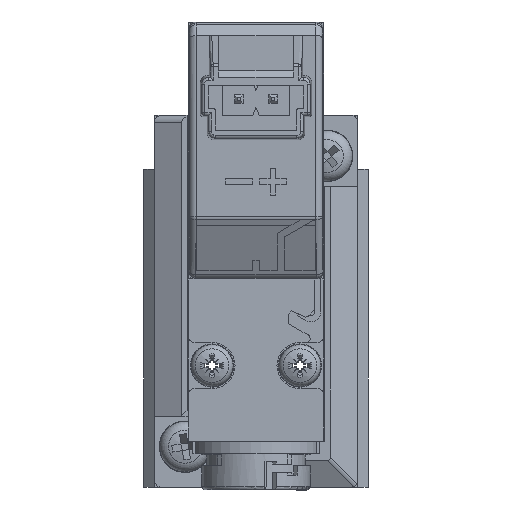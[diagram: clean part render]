
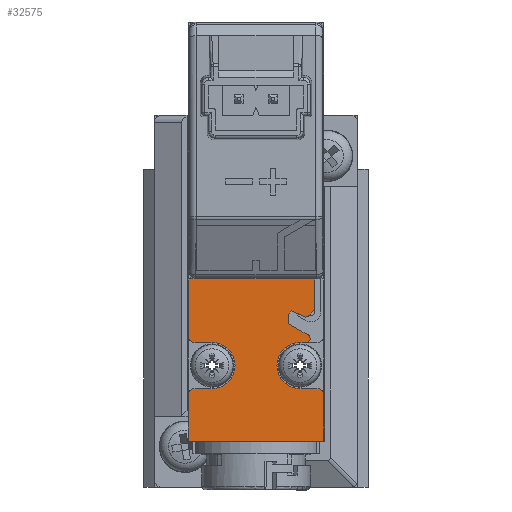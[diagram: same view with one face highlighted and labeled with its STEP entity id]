
A CAD part, left-side view. The second image highlights one B-rep face of the part: STEP entity #32575.
In plain terms, the highlighted planar face has unit normal (-1, 0, 0).
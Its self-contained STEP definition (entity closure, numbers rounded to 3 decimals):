
#2125=PLANE('',#35375);
#4844=LINE('',#61554,#7617);
#4846=LINE('',#61558,#7619);
#4848=LINE('',#61562,#7621);
#4850=LINE('',#61566,#7623);
#4854=LINE('',#61577,#7627);
#4856=LINE('',#61581,#7629);
#4864=LINE('',#61599,#7637);
#4867=LINE('',#61604,#7640);
#4870=LINE('',#61611,#7643);
#4871=LINE('',#61615,#7644);
#4872=LINE('',#61619,#7645);
#4873=LINE('',#61622,#7646);
#4874=LINE('',#61624,#7647);
#4875=LINE('',#61628,#7648);
#4876=LINE('',#61631,#7649);
#7617=VECTOR('',#43611,1.68);
#7619=VECTOR('',#43615,0.7);
#7621=VECTOR('',#43619,0.313);
#7623=VECTOR('',#43623,1.183);
#7627=VECTOR('',#43635,0.611);
#7629=VECTOR('',#43639,2.254);
#7637=VECTOR('',#43661,4.2);
#7640=VECTOR('',#43664,3.4);
#7643=VECTOR('',#43671,9.35);
#7644=VECTOR('',#43674,1.25);
#7645=VECTOR('',#43677,1.25);
#7646=VECTOR('',#43680,10.);
#7647=VECTOR('',#43681,3.4);
#7648=VECTOR('',#43684,1.25);
#7649=VECTOR('',#43687,0.455);
#9420=FACE_OUTER_BOUND('',#11415,.T.);
#11415=EDGE_LOOP('',(#28817,#28818,#28819,#28820,#28821,#28822,#28823,#28824,
#28825,#28826,#28827,#28828,#28829,#28830,#28831,#28832,#28833,#28834,#28835,
#28836,#28837,#28838));
#12457=CIRCLE('',#35365,1.);
#12458=CIRCLE('',#35376,0.3);
#12459=CIRCLE('',#35377,0.5);
#12460=CIRCLE('',#35378,1.7);
#12461=CIRCLE('',#35379,0.5);
#12462=CIRCLE('',#35380,0.5);
#12463=CIRCLE('',#35381,1.7);
#15678=VERTEX_POINT('',#61550);
#15679=VERTEX_POINT('',#61552);
#15680=VERTEX_POINT('',#61556);
#15681=VERTEX_POINT('',#61560);
#15682=VERTEX_POINT('',#61564);
#15684=VERTEX_POINT('',#61570);
#15685=VERTEX_POINT('',#61575);
#15686=VERTEX_POINT('',#61579);
#15688=VERTEX_POINT('',#61596);
#15689=VERTEX_POINT('',#61598);
#15690=VERTEX_POINT('',#61601);
#15691=VERTEX_POINT('',#61603);
#15693=VERTEX_POINT('',#61609);
#15694=VERTEX_POINT('',#61612);
#15695=VERTEX_POINT('',#61614);
#15696=VERTEX_POINT('',#61616);
#15697=VERTEX_POINT('',#61618);
#15698=VERTEX_POINT('',#61621);
#15699=VERTEX_POINT('',#61623);
#15700=VERTEX_POINT('',#61625);
#15701=VERTEX_POINT('',#61627);
#15702=VERTEX_POINT('',#61629);
#20061=EDGE_CURVE('',#15678,#15679,#4844,.T.);
#20063=EDGE_CURVE('',#15679,#15680,#4846,.T.);
#20065=EDGE_CURVE('',#15680,#15681,#4848,.T.);
#20067=EDGE_CURVE('',#15681,#15682,#4850,.T.);
#20070=EDGE_CURVE('',#15682,#15684,#12457,.T.);
#20073=EDGE_CURVE('',#15684,#15685,#4854,.T.);
#20075=EDGE_CURVE('',#15685,#15686,#4856,.T.);
#20083=EDGE_CURVE('',#15689,#15688,#4864,.T.);
#20086=EDGE_CURVE('',#15691,#15690,#4867,.T.);
#20089=EDGE_CURVE('',#15678,#15693,#12458,.T.);
#20090=EDGE_CURVE('',#15686,#15689,#4870,.T.);
#20091=EDGE_CURVE('',#15688,#15694,#12459,.T.);
#20092=EDGE_CURVE('',#15694,#15695,#4871,.T.);
#20093=EDGE_CURVE('',#15695,#15696,#12460,.T.);
#20094=EDGE_CURVE('',#15696,#15697,#4872,.T.);
#20095=EDGE_CURVE('',#15697,#15691,#12461,.T.);
#20096=EDGE_CURVE('',#15690,#15698,#4873,.T.);
#20097=EDGE_CURVE('',#15698,#15699,#4874,.T.);
#20098=EDGE_CURVE('',#15699,#15700,#12462,.T.);
#20099=EDGE_CURVE('',#15700,#15701,#4875,.T.);
#20100=EDGE_CURVE('',#15701,#15702,#12463,.T.);
#20101=EDGE_CURVE('',#15702,#15693,#4876,.T.);
#28817=ORIENTED_EDGE('',*,*,#20089,.F.);
#28818=ORIENTED_EDGE('',*,*,#20061,.T.);
#28819=ORIENTED_EDGE('',*,*,#20063,.T.);
#28820=ORIENTED_EDGE('',*,*,#20065,.T.);
#28821=ORIENTED_EDGE('',*,*,#20067,.T.);
#28822=ORIENTED_EDGE('',*,*,#20070,.T.);
#28823=ORIENTED_EDGE('',*,*,#20073,.T.);
#28824=ORIENTED_EDGE('',*,*,#20075,.T.);
#28825=ORIENTED_EDGE('',*,*,#20090,.T.);
#28826=ORIENTED_EDGE('',*,*,#20083,.T.);
#28827=ORIENTED_EDGE('',*,*,#20091,.T.);
#28828=ORIENTED_EDGE('',*,*,#20092,.T.);
#28829=ORIENTED_EDGE('',*,*,#20093,.T.);
#28830=ORIENTED_EDGE('',*,*,#20094,.T.);
#28831=ORIENTED_EDGE('',*,*,#20095,.T.);
#28832=ORIENTED_EDGE('',*,*,#20086,.T.);
#28833=ORIENTED_EDGE('',*,*,#20096,.T.);
#28834=ORIENTED_EDGE('',*,*,#20097,.T.);
#28835=ORIENTED_EDGE('',*,*,#20098,.T.);
#28836=ORIENTED_EDGE('',*,*,#20099,.T.);
#28837=ORIENTED_EDGE('',*,*,#20100,.T.);
#28838=ORIENTED_EDGE('',*,*,#20101,.T.);
#32575=ADVANCED_FACE('',(#9420),#2125,.T.);
#35365=AXIS2_PLACEMENT_3D('',#61572,#43629,#43630);
#35375=AXIS2_PLACEMENT_3D('',#61608,#43667,#43668);
#35376=AXIS2_PLACEMENT_3D('',#61610,#43669,#43670);
#35377=AXIS2_PLACEMENT_3D('',#61613,#43672,#43673);
#35378=AXIS2_PLACEMENT_3D('',#61617,#43675,#43676);
#35379=AXIS2_PLACEMENT_3D('',#61620,#43678,#43679);
#35380=AXIS2_PLACEMENT_3D('',#61626,#43682,#43683);
#35381=AXIS2_PLACEMENT_3D('',#61630,#43685,#43686);
#43611=DIRECTION('',(0.,0.866,0.5));
#43615=DIRECTION('',(0.,0.,1.));
#43619=DIRECTION('',(0.,-0.639,0.77));
#43623=DIRECTION('',(0.,-0.92,-0.391));
#43629=DIRECTION('center_axis',(-1.,0.,0.));
#43630=DIRECTION('ref_axis',(0.,0.389,0.921));
#43635=DIRECTION('',(0.,-0.707,0.707));
#43639=DIRECTION('',(0.,0.,1.));
#43661=DIRECTION('',(0.,0.,-1.));
#43664=DIRECTION('',(0.,0.,-1.));
#43667=DIRECTION('center_axis',(-1.,0.,0.));
#43668=DIRECTION('ref_axis',(0.,-1.,0.));
#43669=DIRECTION('center_axis',(1.,0.,0.));
#43670=DIRECTION('ref_axis',(0.,0.,
-1.));
#43671=DIRECTION('',(0.,1.,0.));
#43672=DIRECTION('center_axis',(-1.,0.,0.));
#43673=DIRECTION('ref_axis',(0.,-1.,0.));
#43674=DIRECTION('',(0.,-1.,0.));
#43675=DIRECTION('center_axis',(1.,0.,0.));
#43676=DIRECTION('ref_axis',(0.,0.,
-1.));
#43677=DIRECTION('',(0.,1.,0.));
#43678=DIRECTION('center_axis',(-1.,0.,0.));
#43679=DIRECTION('ref_axis',(0.,0.,
-1.));
#43680=DIRECTION('',(0.,-1.,0.));
#43681=DIRECTION('',(0.,0.,1.));
#43682=DIRECTION('center_axis',(-1.,0.,0.));
#43683=DIRECTION('ref_axis',(0.,1.,0.));
#43684=DIRECTION('',(0.,1.,0.));
#43685=DIRECTION('center_axis',(1.,0.,0.));
#43686=DIRECTION('ref_axis',(0.,0.,
1.));
#43687=DIRECTION('',(0.,-1.,0.));
#61550=CARTESIAN_POINT('',(-62.7,-3.855,-2.49));
#61552=CARTESIAN_POINT('',(-62.7,-2.4,-1.65));
#61554=CARTESIAN_POINT('',(-62.7,-2.708,-1.828));
#61556=CARTESIAN_POINT('',(-62.7,-2.4,-0.95));
#61558=CARTESIAN_POINT('',(-62.7,-2.4,-2.65));
#61560=CARTESIAN_POINT('',(-62.7,-2.6,-0.709));
#61562=CARTESIAN_POINT('',(-62.7,-1.175,-2.426));
#61564=CARTESIAN_POINT('',(-62.7,-3.689,-1.171));
#61566=CARTESIAN_POINT('',(-62.7,-2.698,-0.751));
#61570=CARTESIAN_POINT('',(-62.7,-3.918,-1.036));
#61572=CARTESIAN_POINT('Origin',(-62.7,-3.3,-0.25));
#61575=CARTESIAN_POINT('',(-62.7,-4.35,-0.604));
#61577=CARTESIAN_POINT('',(-62.7,-2.326,-2.628));
#61579=CARTESIAN_POINT('',(-62.7,-4.35,1.65));
#61581=CARTESIAN_POINT('',(-62.7,-4.35,-1.35));
#61596=CARTESIAN_POINT('',(-62.7,5.,-2.55));
#61598=CARTESIAN_POINT('',(-62.7,5.,1.65));
#61599=CARTESIAN_POINT('',(-62.7,5.,1.65));
#61601=CARTESIAN_POINT('',(-62.7,5.,-10.35));
#61603=CARTESIAN_POINT('',(-62.7,5.,-6.95));
#61604=CARTESIAN_POINT('',(-62.7,5.,1.65));
#61608=CARTESIAN_POINT('Origin',(-62.7,0.,-4.35));
#61609=CARTESIAN_POINT('',(-62.7,-3.705,-3.05));
#61610=CARTESIAN_POINT('Origin',(-62.7,-3.705,-2.75));
#61611=CARTESIAN_POINT('',(-62.7,-5.,1.65));
#61612=CARTESIAN_POINT('',(-62.7,4.5,-3.05));
#61613=CARTESIAN_POINT('Origin',(-62.7,4.5,-2.55));
#61614=CARTESIAN_POINT('',(-62.7,3.25,-3.05));
#61615=CARTESIAN_POINT('',(-62.7,1.625,-3.05));
#61616=CARTESIAN_POINT('',(-62.7,3.25,-6.45));
#61617=CARTESIAN_POINT('Origin',(-62.7,3.25,-4.75));
#61618=CARTESIAN_POINT('',(-62.7,4.5,-6.45));
#61619=CARTESIAN_POINT('',(-62.7,2.25,-6.45));
#61620=CARTESIAN_POINT('Origin',(-62.7,4.5,-6.95));
#61621=CARTESIAN_POINT('',(-62.7,-5.,-10.35));
#61622=CARTESIAN_POINT('',(-62.7,5.,-10.35));
#61623=CARTESIAN_POINT('',(-62.7,-5.,-6.95));
#61624=CARTESIAN_POINT('',(-62.7,-5.,-10.35));
#61625=CARTESIAN_POINT('',(-62.7,-4.5,-6.45));
#61626=CARTESIAN_POINT('Origin',(-62.7,-4.5,-6.95));
#61627=CARTESIAN_POINT('',(-62.7,-3.25,-6.45));
#61628=CARTESIAN_POINT('',(-62.7,-1.625,-6.45));
#61629=CARTESIAN_POINT('',(-62.7,-3.25,-3.05));
#61630=CARTESIAN_POINT('Origin',(-62.7,-3.25,-4.75));
#61631=CARTESIAN_POINT('',(-62.7,-2.25,-3.05));
